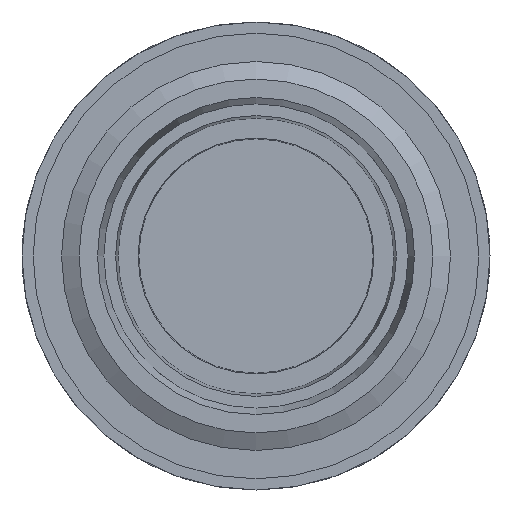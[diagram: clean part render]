
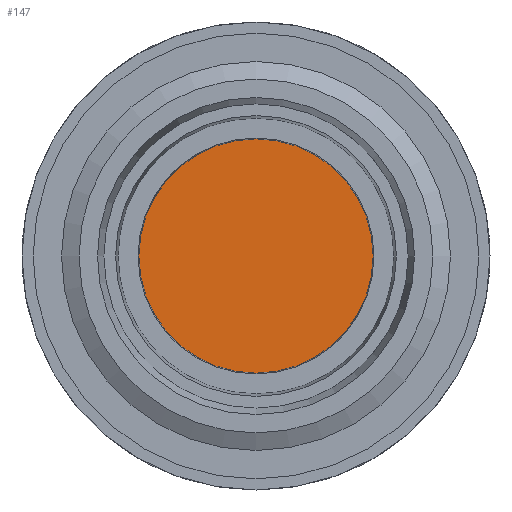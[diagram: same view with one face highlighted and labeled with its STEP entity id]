
A CAD part, left-side view. The second image highlights one B-rep face of the part: STEP entity #147.
In plain terms, the highlighted planar face has unit normal (-1, 0, 0).
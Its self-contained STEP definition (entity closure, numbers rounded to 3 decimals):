
#147 = ADVANCED_FACE( '', ( #469 ), #470, .F. );
#469 = FACE_OUTER_BOUND( '', #844, .T. );
#470 = PLANE( '', #845 );
#844 = EDGE_LOOP( '', ( #1517 ) );
#845 = AXIS2_PLACEMENT_3D( '', #1518, #1519, #1520 );
#1517 = ORIENTED_EDGE( '', *, *, #2087, .F. );
#1518 = CARTESIAN_POINT( '', ( 16.15, 0., 0. ) );
#1519 = DIRECTION( '', ( 1., 0., 0. ) );
#1520 = DIRECTION( '', ( 0., 1., 0. ) );
#2087 = EDGE_CURVE( '', #2576, #2576, #2577, .T. );
#2576 = VERTEX_POINT( '', #5865 );
#2577 = CIRCLE( '', #5866, 10.013 );
#5865 = CARTESIAN_POINT( '', ( 16.15, 10.013, 0. ) );
#5866 = AXIS2_PLACEMENT_3D( '', #6226, #6227, #6228 );
#6226 = CARTESIAN_POINT( '', ( 16.15, 0., 0. ) );
#6227 = DIRECTION( '', ( 1., 0., 0. ) );
#6228 = DIRECTION( '', ( 0., 1., 0. ) );
